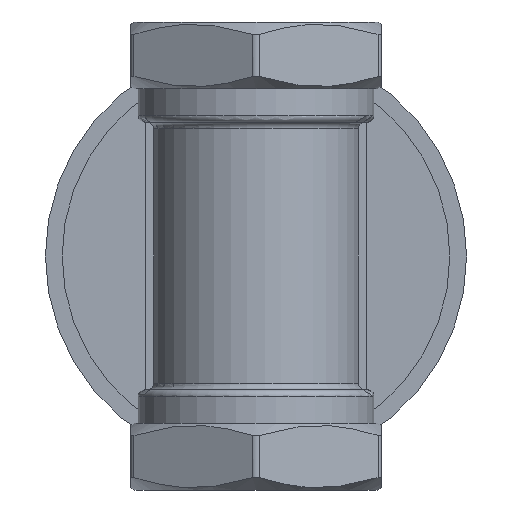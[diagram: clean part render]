
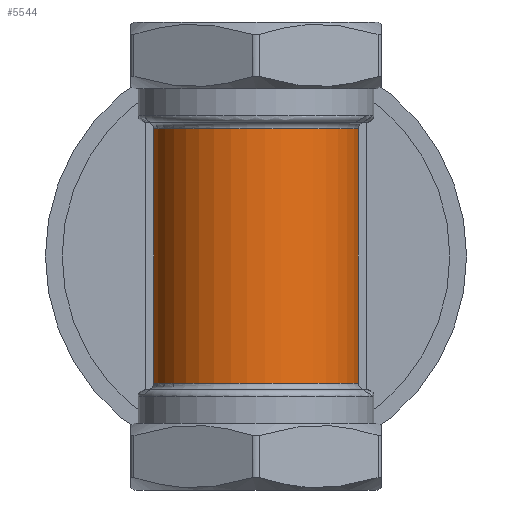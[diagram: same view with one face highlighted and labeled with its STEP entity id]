
A CAD part, front view. The second image highlights one B-rep face of the part: STEP entity #5544.
In plain terms, the highlighted cylindrical face has radius 15.5 mm (diameter 31 mm), a partial arc.
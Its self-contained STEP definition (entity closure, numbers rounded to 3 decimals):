
#5544=ADVANCED_FACE('',(#17931),#17933,.T.);
#17931=FACE_BOUND('',#17932,.T.);
#17932=EDGE_LOOP('',(#22249,#22250,#22251,#22252));
#17933=CYLINDRICAL_SURFACE('',#17934,15.5);
#17934=AXIS2_PLACEMENT_3D('',#17935,#17936,#17937);
#17935=CARTESIAN_POINT('',(0.,0.,20.));
#17936=DIRECTION('',(0.,0.,-1.));
#17937=DIRECTION('',(-1.,0.,0.));
#22249=ORIENTED_EDGE('',*,*,#24519,.F.);
#22250=ORIENTED_EDGE('',*,*,#24255,.F.);
#22251=ORIENTED_EDGE('',*,*,#24520,.F.);
#22252=ORIENTED_EDGE('',*,*,#24246,.T.);
#24246=EDGE_CURVE('',#27023,#27021,#27024,.T.);
#24255=EDGE_CURVE('',#27036,#27032,#27038,.T.);
#24519=EDGE_CURVE('',#27032,#27021,#27434,.T.);
#24520=EDGE_CURVE('',#27023,#27036,#27435,.T.);
#27021=VERTEX_POINT('',#43245);
#27023=VERTEX_POINT('',#43343);
#27024=LINE('',#43344,#43345);
#27032=VERTEX_POINT('',#43459);
#27036=VERTEX_POINT('',#43561);
#27038=LINE('',#43659,#43660);
#27434=CIRCLE('',#44586,15.5);
#27435=CIRCLE('',#44590,15.5);
#43245=CARTESIAN_POINT('',(-15.297,-2.5,-19.));
#43343=CARTESIAN_POINT('',(-15.297,-2.5,19.));
#43344=CARTESIAN_POINT('',(-15.297,-2.5,19.));
#43345=VECTOR('',#43346,1.);
#43346=DIRECTION('',(0.,0.,-1.));
#43459=CARTESIAN_POINT('',(15.297,-2.5,-19.));
#43561=CARTESIAN_POINT('',(15.297,-2.5,19.));
#43659=CARTESIAN_POINT('',(15.297,-2.5,19.));
#43660=VECTOR('',#43661,1.);
#43661=DIRECTION('',(0.,0.,-1.));
#44586=AXIS2_PLACEMENT_3D('',#44587,#44588,#44589);
#44587=CARTESIAN_POINT('',(0.,0.,-19.));
#44588=DIRECTION('',(0.,0.,-1.));
#44589=DIRECTION('',(0.987,-0.161,0.));
#44590=AXIS2_PLACEMENT_3D('',#44591,#44592,#44593);
#44591=CARTESIAN_POINT('',(0.,0.,19.));
#44592=DIRECTION('',(0.,0.,1.));
#44593=DIRECTION('',(-0.987,-0.161,0.));
